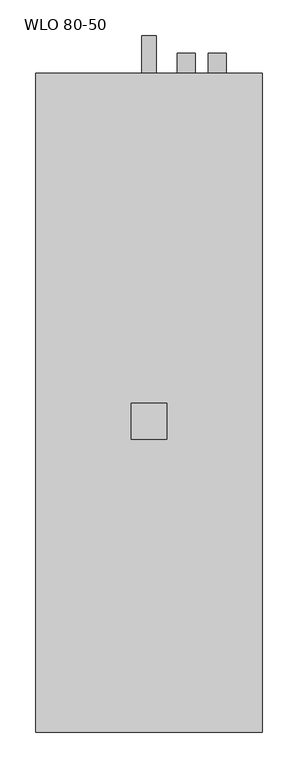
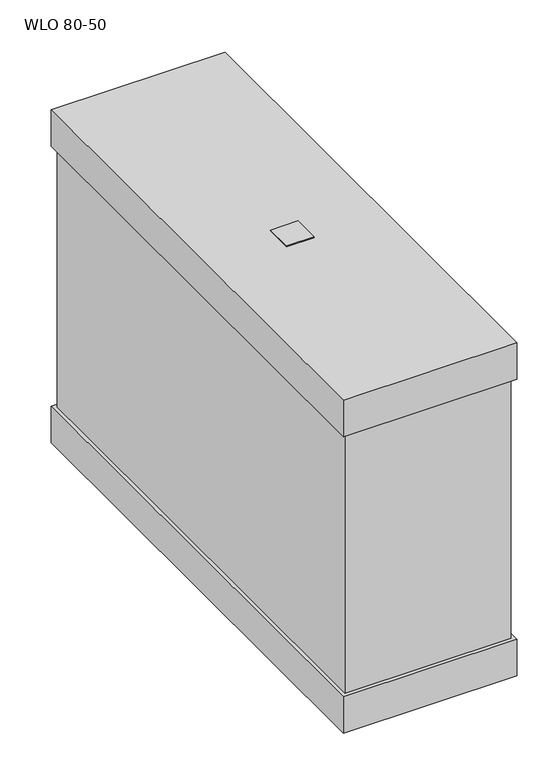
"""IFC4 building model written with IfcOpenShell, lengths in millimetres: proxy geometry, KORF_Воздухоохладитель_Водяной_WLO_Правый : WLO 80-50."""

from ifc_helpers import new_model, si_unit, point, frame, frame_2d, origin, place, context, project, spatial, polyline, circle_curve, trimmed, segment, composite_curve, outline, extrude, faceted_brep, source, transform, mapped, element, save


def wlo_80_50_446b80be(model_context):
    return source(origin(), model_context, "Body", "SolidModel", [
        extrude(outline(polyline([(133.0, -25.0), (133.0, 25.0), (183.0, 25.0), (183.0, -25.0), (133.0, -25.0)])), frame((0.0, 0.0, 320.0), z_axis=(0.0, 0.0, 1.0), x_axis=(1.0, 0.0, 0.0)), (0.0, 0.0, 1.0), 2.0),
        faceted_brep([(316.0, -434.0, 320.0), (316.0, -434.0, 250.0), (316.0, 486.0, 250.0), (316.0, 486.0, 320.0), (316.0, -434.0, -250.0), (316.0, -434.0, -320.0), (316.0, 486.0, -320.0), (316.0, 486.0, -250.0), (0.0, -434.0, 320.0), (0.0, 486.0, 320.0), (0.0, 486.0, 250.0), (0.0, -434.0, 250.0), (0.0, -434.0, -250.0), (0.0, 486.0, -250.0), (0.0, 486.0, -320.0), (0.0, -434.0, -320.0), (7.0, -427.0, 250.0), (309.0, -427.0, 250.0), (309.0, -400.0, 250.0), (309.0, 400.0, 250.0), (309.0, 479.0, 250.0), (7.0, 479.0, 250.0), (7.0, 400.0, 250.0), (7.0, -400.0, 250.0), (309.0, -427.0, -250.0), (7.0, -427.0, -250.0), (7.0, -400.0, -250.0), (7.0, 400.0, -250.0), (7.0, 479.0, -250.0), (309.0, 479.0, -250.0), (309.0, 400.0, -250.0), (309.0, -400.0, -250.0)], [[[0, 1, 2, 3]], [[4, 5, 6, 7]], [[8, 9, 10, 11]], [[12, 13, 14, 15]], [[1, 0, 8, 11]], [[2, 1, 11, 10], [16, 17, 18, 19, 20, 21, 22, 23]], [[3, 2, 10, 9]], [[0, 3, 9, 8]], [[5, 4, 12, 15]], [[6, 5, 15, 14]], [[7, 6, 14, 13]], [[4, 7, 13, 12], [24, 25, 26, 27, 28, 29, 30, 31]], [[17, 24, 31, 30, 29, 20, 19, 18]], [[21, 28, 27, 26, 25, 16, 23, 22]], [[24, 17, 16, 25]], [[20, 29, 28, 21]]]),
        extrude(outline(composite_curve([segment(trimmed(circle_curve(frame_2d((50.0, 253.0)), 12.5), [point((50.0, 240.5))], [point((50.0, 265.5))], False, "CARTESIAN"), True, "CONTINUOUS"), segment(trimmed(circle_curve(frame_2d((50.0, 253.0)), 12.5), [point((50.0, 265.5))], [point((50.0, 240.5))], False, "CARTESIAN"), True, "CONTINUOUS")], self_intersect=False)), frame((0.0, 479.0, 0.0), z_axis=(0.0, 1.0, 0.0), x_axis=(0.0, 0.0, 1.0)), (0.0, 0.0, 1.0), 35.0),
        extrude(outline(composite_curve([segment(trimmed(circle_curve(frame_2d((-50.0, 210.0)), 12.5), [point((-50.0, 197.5))], [point((-50.0, 222.5))], False, "CARTESIAN"), True, "CONTINUOUS"), segment(trimmed(circle_curve(frame_2d((-50.0, 210.0)), 12.5), [point((-50.0, 222.5))], [point((-50.0, 197.5))], False, "CARTESIAN"), True, "CONTINUOUS")], self_intersect=False)), frame((0.0, 479.0, 0.0), z_axis=(0.0, 1.0, 0.0), x_axis=(0.0, 0.0, 1.0)), (0.0, 0.0, 1.0), 35.0),
        extrude(outline(composite_curve([segment(trimmed(circle_curve(frame_2d((-302.0, 158.0)), 10.0), [point((-302.0, 148.0))], [point((-302.0, 168.0))], False, "CARTESIAN"), True, "CONTINUOUS"), segment(trimmed(circle_curve(frame_2d((-302.0, 158.0)), 10.0), [point((-302.0, 168.0))], [point((-302.0, 148.0))], False, "CARTESIAN"), True, "CONTINUOUS")], self_intersect=False)), frame((0.0, 486.0, 0.0), z_axis=(0.0, 1.0, 0.0), x_axis=(0.0, 0.0, 1.0)), (0.0, 0.0, 1.0), 52.0),
    ])


if __name__ == "__main__":
    model = new_model("IFC4")
    model_context = context("Model", 3, world=origin())
    ifc_project = project(units=[si_unit("LENGTHUNIT", "METRE", prefix="MILLI")], contexts=[model_context])
    site = spatial("IfcSite", under=ifc_project)
    building = spatial("IfcBuilding", under=site)
    placement = place(None, origin())
    wlo_80_50_shape = wlo_80_50_446b80be(model_context)
    element("IfcBuildingElementProxy", 1, Name="KORF_Воздухоохладитель_Водяной_WLO_Правый : WLO 80-50", ObjectType="KORF_Воздухоохладитель_Водяной_WLO_Правый : WLO 80-50", at=placement, inside=building, context=model_context, shape_type="MappedRepresentation", body=[
        mapped(wlo_80_50_shape, transform((0.0, 0.0, 0.0), x_axis=(1.0, 0.0, 0.0), y_axis=(0.0, 1.0, 0.0), z_axis=(0.0, 0.0, 1.0))),
    ])
    save(model, "model.ifc")
